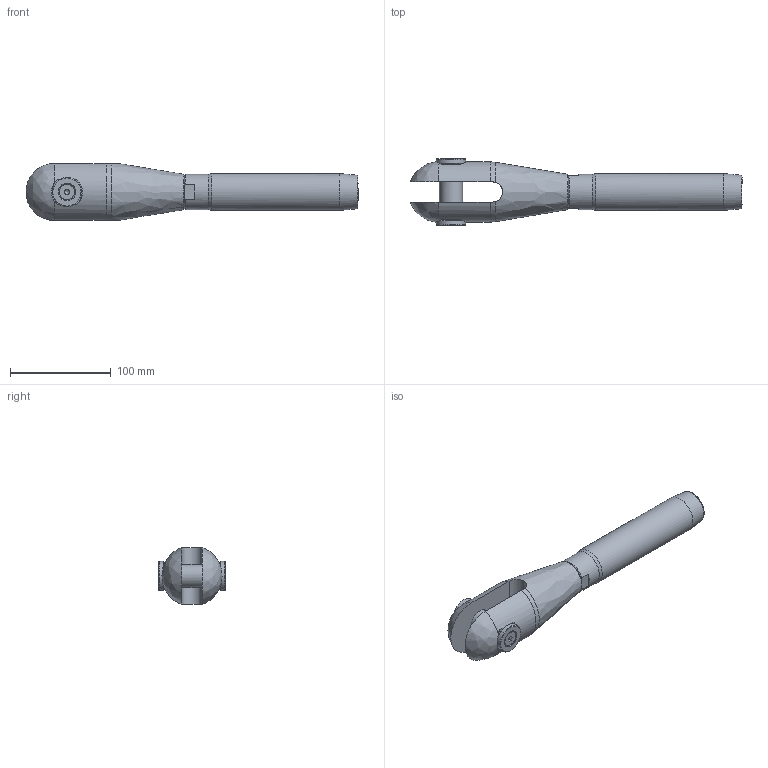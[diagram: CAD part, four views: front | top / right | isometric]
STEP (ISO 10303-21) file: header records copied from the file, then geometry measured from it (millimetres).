
FILE_DESCRIPTION(/* description */ (''),/* implementation_level */ '2;1');
FILE_NAME(/* name */ 'MAC-R 16_S355',/* time_stamp */ '2023-05-23T17:52:46+02:00',/* author */ (''),/* organization */ (''),/* preprocessor_version */ 'ST-DEVELOPER v16.5',/* originating_system */ 'Rhino 7.22',/* authorisation */ '');
FILE_SCHEMA (('CONFIG_CONTROL_DESIGN'));
Length unit declared in the file: millimetre
Products named in the file (1): Document
Bounding box: 330.25 x 66.54 x 56.67 mm (x, y, z)
Volume: 438562.1 mm3; surface area: 76583.5 mm2
Topology: 7 solids, 7 shells, 88 faces, 246 edges, 171 vertices
Faces by surface type: plane 36, bspline 28, cylinder 24
Full cylindrical faces by diameter (mm): 6.647 x2, 8 x2, 8.5 x2, 15.24 x2, 23 x1, 25 x2, 26.211 x1, 29 x2, 30 x1, 35 x1, 36.8 x1
Entity records: 3494 total; most frequent: CARTESIAN_POINT 1931, ORIENTED_EDGE 482, EDGE_CURVE 241, VERTEX_POINT 171, EDGE_LOOP 100, B_SPLINE_CURVE_WITH_KNOTS 97, ADVANCED_FACE 88, FACE_OUTER_BOUND 88
